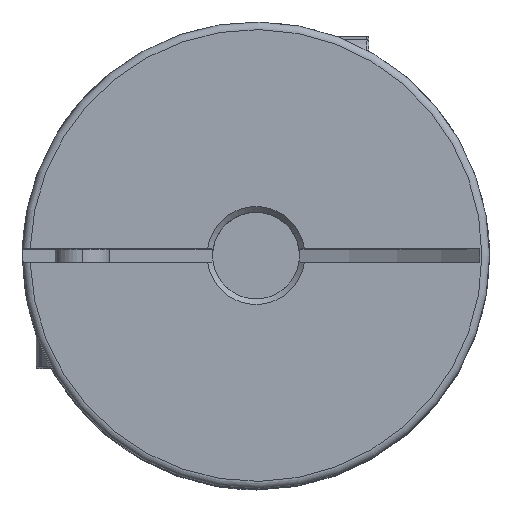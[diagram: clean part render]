
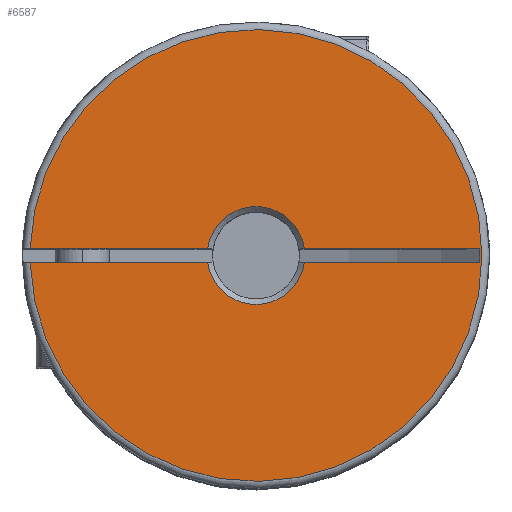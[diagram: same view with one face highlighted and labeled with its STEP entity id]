
A CAD part, top view. The second image highlights one B-rep face of the part: STEP entity #6587.
In plain terms, the highlighted planar face has unit normal (0, 0, 1).
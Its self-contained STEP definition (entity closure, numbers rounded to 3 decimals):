
#1191 = LINE ( 'NONE', #8212, #1285 ) ;
#1244 = LINE ( 'NONE', #8167, #1921 ) ;
#1256 = CIRCLE ( 'NONE', #3817, 4.5 ) ;
#1259 = LINE ( 'NONE', #8206, #1286 ) ;
#1260 = CIRCLE ( 'NONE', #3815, 4.5 ) ;
#1285 = VECTOR ( 'NONE', #8208, 1000. ) ;
#1286 = VECTOR ( 'NONE', #8205, 1000. ) ;
#1359 = CIRCLE ( 'NONE', #3816, 20.8 ) ;
#1570 = LINE ( 'NONE', #8198, #1593 ) ;
#1593 = VECTOR ( 'NONE', #8197, 1000. ) ;
#1675 = LINE ( 'NONE', #8226, #1695 ) ;
#1695 = VECTOR ( 'NONE', #8302, 1000. ) ;
#1921 = VECTOR ( 'NONE', #8161, 1000. ) ;
#1976 = VERTEX_POINT ( 'NONE', #2950 ) ;
#1978 = VERTEX_POINT ( 'NONE', #2946 ) ;
#2071 = VERTEX_POINT ( 'NONE', #7579 ) ;
#2082 = VERTEX_POINT ( 'NONE', #7516 ) ;
#2249 = VERTEX_POINT ( 'NONE', #7563 ) ;
#2347 = EDGE_LOOP ( 'NONE', ( #5319, #5237, #5339, #5338, #5236, #5241, #5426, #5409 ) ) ;
#2467 = VERTEX_POINT ( 'NONE', #7531 ) ;
#2477 = VERTEX_POINT ( 'NONE', #7521 ) ;
#2485 = VERTEX_POINT ( 'NONE', #7523 ) ;
#2946 = CARTESIAN_POINT ( 'NONE',  ( -20.791, -0.6, 26. ) ) ;
#2950 = CARTESIAN_POINT ( 'NONE',  ( -4.46, -0.6, 26. ) ) ;
#3299 = EDGE_CURVE ( 'NONE', #2477, #2485, #1191, .T. ) ;
#3300 = EDGE_CURVE ( 'NONE', #2249, #2485, #1259, .T. ) ;
#3301 = EDGE_CURVE ( 'NONE', #2071, #2249, #1260, .T. ) ;
#3302 = EDGE_CURVE ( 'NONE', #1978, #2082, #1359, .T. ) ;
#3303 = EDGE_CURVE ( 'NONE', #2467, #1976, #1256, .T. ) ;
#3304 = EDGE_CURVE ( 'NONE', #2467, #2477, #1570, .T. ) ;
#3310 = EDGE_CURVE ( 'NONE', #1978, #1976, #1244, .T. ) ;
#3314 = EDGE_CURVE ( 'NONE', #2082, #2071, #1675, .T. ) ;
#3815 = AXIS2_PLACEMENT_3D ( 'NONE', #8201, #8200, #8199 ) ;
#3816 = AXIS2_PLACEMENT_3D ( 'NONE', #8195, #8193, #8192 ) ;
#3817 = AXIS2_PLACEMENT_3D ( 'NONE', #8189, #8188, #8186 ) ;
#3930 = AXIS2_PLACEMENT_3D ( 'NONE', #4301, #4306, #4307 ) ;
#4301 = CARTESIAN_POINT ( 'NONE',  ( 0., 0., 26. ) ) ;
#4302 = PLANE ( 'NONE',  #3930 ) ;
#4306 = DIRECTION ( 'NONE',  ( 0., 0., -1. ) ) ;
#4307 = DIRECTION ( 'NONE',  ( -1., 0., 0. ) ) ;
#5236 = ORIENTED_EDGE ( 'NONE', *, *, #3314, .T. ) ;
#5237 = ORIENTED_EDGE ( 'NONE', *, *, #3303, .T. ) ;
#5241 = ORIENTED_EDGE ( 'NONE', *, *, #3301, .T. ) ;
#5319 = ORIENTED_EDGE ( 'NONE', *, *, #3304, .F. ) ;
#5338 = ORIENTED_EDGE ( 'NONE', *, *, #3302, .T. ) ;
#5339 = ORIENTED_EDGE ( 'NONE', *, *, #3310, .F. ) ;
#5409 = ORIENTED_EDGE ( 'NONE', *, *, #3299, .F. ) ;
#5426 = ORIENTED_EDGE ( 'NONE', *, *, #3300, .T. ) ;
#6587 = ADVANCED_FACE ( 'NONE', ( #7001 ), #4302, .F. ) ;
#7001 = FACE_OUTER_BOUND ( 'NONE', #2347, .T. ) ;
#7516 = CARTESIAN_POINT ( 'NONE',  ( -20.791, 0.6, 26. ) ) ;
#7521 = CARTESIAN_POINT ( 'NONE',  ( 20.6, -0.6, 26. ) ) ;
#7523 = CARTESIAN_POINT ( 'NONE',  ( 20.6, 0.6, 26. ) ) ;
#7531 = CARTESIAN_POINT ( 'NONE',  ( 4.46, -0.6, 26. ) ) ;
#7563 = CARTESIAN_POINT ( 'NONE',  ( 4.46, 0.6, 26. ) ) ;
#7579 = CARTESIAN_POINT ( 'NONE',  ( -4.46, 0.6, 26. ) ) ;
#8161 = DIRECTION ( 'NONE',  ( 1., 0., 0. ) ) ;
#8167 = CARTESIAN_POINT ( 'NONE',  ( -21.5, -0.6, 26. ) ) ;
#8186 = DIRECTION ( 'NONE',  ( 0., 1., 0. ) ) ;
#8188 = DIRECTION ( 'NONE',  ( 0., 0., -1. ) ) ;
#8189 = CARTESIAN_POINT ( 'NONE',  ( 0., 0., 26. ) ) ;
#8192 = DIRECTION ( 'NONE',  ( -1., 0., 0. ) ) ;
#8193 = DIRECTION ( 'NONE',  ( 0., 0., 1. ) ) ;
#8195 = CARTESIAN_POINT ( 'NONE',  ( 0., 0., 26. ) ) ;
#8197 = DIRECTION ( 'NONE',  ( 1., 0., 0. ) ) ;
#8198 = CARTESIAN_POINT ( 'NONE',  ( -21.5, -0.6, 26. ) ) ;
#8199 = DIRECTION ( 'NONE',  ( 0., 1., 0. ) ) ;
#8200 = DIRECTION ( 'NONE',  ( 0., 0., -1. ) ) ;
#8201 = CARTESIAN_POINT ( 'NONE',  ( 0., 0., 26. ) ) ;
#8205 = DIRECTION ( 'NONE',  ( 1., 0., 0. ) ) ;
#8206 = CARTESIAN_POINT ( 'NONE',  ( -21.5, 0.6, 26. ) ) ;
#8208 = DIRECTION ( 'NONE',  ( 0., 1., 0. ) ) ;
#8212 = CARTESIAN_POINT ( 'NONE',  ( 20.6, -0.6, 26. ) ) ;
#8226 = CARTESIAN_POINT ( 'NONE',  ( -21.5, 0.6, 26. ) ) ;
#8302 = DIRECTION ( 'NONE',  ( 1., 0., 0. ) ) ;
